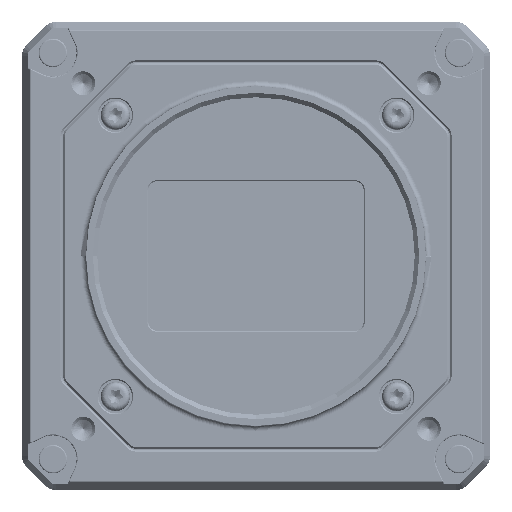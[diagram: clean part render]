
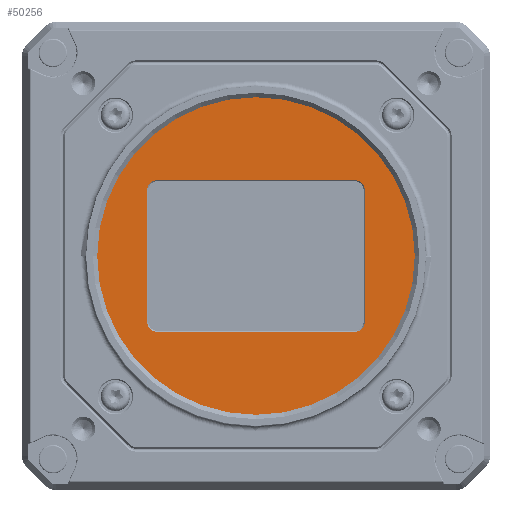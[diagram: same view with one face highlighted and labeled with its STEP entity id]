
A CAD part, left-side view. The second image highlights one B-rep face of the part: STEP entity #50256.
In plain terms, the highlighted planar face has unit normal (-1, 0, 0).
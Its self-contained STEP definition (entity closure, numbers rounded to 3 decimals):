
#5643=CARTESIAN_POINT('',(4.65,0.,0.));
#5644=DIRECTION('',(1.,0.,0.));
#5645=DIRECTION('',(0.,0.,-1.));
#5646=AXIS2_PLACEMENT_3D('',#5643,#5644,#5645);
#5648=CARTESIAN_POINT('',(4.65,0.,0.));
#5649=DIRECTION('',(1.,0.,0.));
#5650=DIRECTION('',(0.,0.,1.));
#5651=AXIS2_PLACEMENT_3D('',#5648,#5649,#5650);
#5653=CARTESIAN_POINT('',(4.65,17.8,11.9));
#5654=DIRECTION('',(-1.,0.,0.));
#5655=DIRECTION('',(0.,0.,1.));
#5656=AXIS2_PLACEMENT_3D('',#5653,#5654,#5655);
#5658=CARTESIAN_POINT('',(4.65,17.8,-11.9));
#5659=DIRECTION('',(-1.,0.,0.));
#5660=DIRECTION('',(0.,1.,0.));
#5661=AXIS2_PLACEMENT_3D('',#5658,#5659,#5660);
#5663=DIRECTION('',(0.,-1.,0.));
#5664=VECTOR('',#5663,35.6);
#5665=CARTESIAN_POINT('',(4.65,17.8,-13.6));
#5666=LINE('',#5665,#5664);
#5667=CARTESIAN_POINT('',(4.65,-17.8,-11.9));
#5668=DIRECTION('',(-1.,0.,0.));
#5669=DIRECTION('',(0.,0.,-1.));
#5670=AXIS2_PLACEMENT_3D('',#5667,#5668,#5669);
#5672=DIRECTION('',(0.,0.,1.));
#5673=VECTOR('',#5672,23.8);
#5674=CARTESIAN_POINT('',(4.65,-19.5,
-11.9));
#5675=LINE('',#5674,#5673);
#5676=CARTESIAN_POINT('',(4.65,-17.8,11.9));
#5677=DIRECTION('',(-1.,0.,0.));
#5678=DIRECTION('',(0.,-1.,0.));
#5679=AXIS2_PLACEMENT_3D('',#5676,#5677,#5678);
#5681=DIRECTION('',(0.,1.,0.));
#5682=VECTOR('',#5681,35.6);
#5683=CARTESIAN_POINT('',(4.65,-17.8,13.6));
#5684=LINE('',#5683,#5682);
#5737=DIRECTION('',(0.,0.,1.));
#5738=VECTOR('',#5737,23.8);
#5739=CARTESIAN_POINT('',(4.65,19.5,-11.9));
#5740=LINE('',#5739,#5738);
#39156=CARTESIAN_POINT('',(4.65,0.,-29.25));
#39157=CARTESIAN_POINT('',(4.65,0.,29.25));
#39158=VERTEX_POINT('',#39156);
#39159=VERTEX_POINT('',#39157);
#39160=CARTESIAN_POINT('',(4.65,17.8,13.6));
#39161=CARTESIAN_POINT('',(4.65,19.5,11.9));
#39162=VERTEX_POINT('',#39160);
#39163=VERTEX_POINT('',#39161);
#39164=CARTESIAN_POINT('',(4.65,19.5,
-11.9));
#39165=VERTEX_POINT('',#39164);
#39166=CARTESIAN_POINT('',(4.65,17.8,-13.6));
#39167=VERTEX_POINT('',#39166);
#39168=CARTESIAN_POINT('',(4.65,-17.8,
-13.6));
#39169=VERTEX_POINT('',#39168);
#39170=CARTESIAN_POINT('',(4.65,-19.5,-11.9));
#39171=VERTEX_POINT('',#39170);
#39172=CARTESIAN_POINT('',(4.65,-19.5,
11.9));
#39173=VERTEX_POINT('',#39172);
#39174=CARTESIAN_POINT('',(4.65,-17.8,13.6));
#39175=VERTEX_POINT('',#39174);
#50228=CARTESIAN_POINT('',(4.65,0.,0.));
#50229=DIRECTION('',(1.,0.,0.));
#50230=DIRECTION('',(0.,-1.,0.));
#50231=AXIS2_PLACEMENT_3D('',#50228,#50229,#50230);
#50232=PLANE('',#50231);
#50233=ORIENTED_EDGE('',*,*,#50218,.T.);
#50235=ORIENTED_EDGE('',*,*,#50234,.T.);
#50236=EDGE_LOOP('',(#50233,#50235));
#50237=FACE_OUTER_BOUND('',#50236,.F.);
#50239=ORIENTED_EDGE('',*,*,#50238,.T.);
#50241=ORIENTED_EDGE('',*,*,#50240,.F.);
#50243=ORIENTED_EDGE('',*,*,#50242,.T.);
#50245=ORIENTED_EDGE('',*,*,#50244,.T.);
#50247=ORIENTED_EDGE('',*,*,#50246,.T.);
#50249=ORIENTED_EDGE('',*,*,#50248,.T.);
#50251=ORIENTED_EDGE('',*,*,#50250,.T.);
#50253=ORIENTED_EDGE('',*,*,#50252,.T.);
#50254=EDGE_LOOP('',(#50239,#50241,#50243,#50245,#50247,#50249,#50251,#50253));
#50255=FACE_BOUND('',#50254,.F.);
#50256=ADVANCED_FACE('',(#50237,#50255),#50232,.F.);
#5647=CIRCLE('',#5646,29.25);
#5652=CIRCLE('',#5651,29.25);
#5657=CIRCLE('',#5656,1.7);
#5662=CIRCLE('',#5661,1.7);
#5671=CIRCLE('',#5670,1.7);
#5680=CIRCLE('',#5679,1.7);
#50218=EDGE_CURVE('',#39158,#39159,#5647,.T.);
#50234=EDGE_CURVE('',#39159,#39158,#5652,.T.);
#50238=EDGE_CURVE('',#39162,#39163,#5657,.T.);
#50240=EDGE_CURVE('',#39165,#39163,#5740,.T.);
#50242=EDGE_CURVE('',#39165,#39167,#5662,.T.);
#50244=EDGE_CURVE('',#39167,#39169,#5666,.T.);
#50246=EDGE_CURVE('',#39169,#39171,#5671,.T.);
#50248=EDGE_CURVE('',#39171,#39173,#5675,.T.);
#50250=EDGE_CURVE('',#39173,#39175,#5680,.T.);
#50252=EDGE_CURVE('',#39175,#39162,#5684,.T.);
